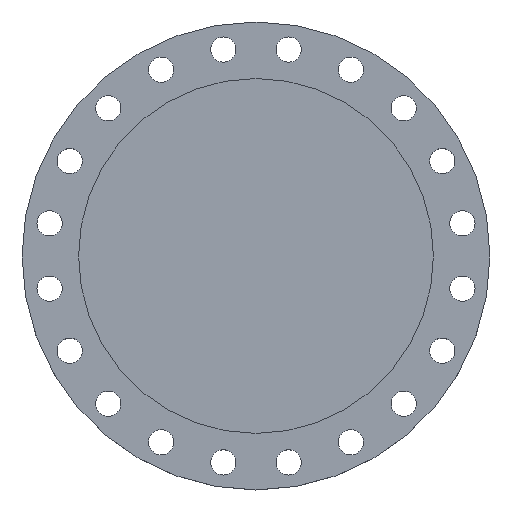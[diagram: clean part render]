
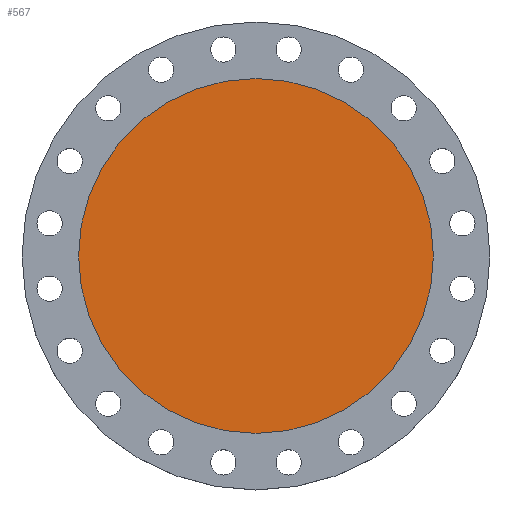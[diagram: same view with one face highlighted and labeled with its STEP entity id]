
A CAD part, top view. The second image highlights one B-rep face of the part: STEP entity #567.
In plain terms, the highlighted planar face has unit normal (0, 0, 1).
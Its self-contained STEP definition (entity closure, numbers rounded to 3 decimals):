
#130 = DIRECTION ( 'NONE',  ( -1., 0., 0. ) ) ;
#131 = DIRECTION ( 'NONE',  ( 0., 0., -1. ) ) ;
#134 = CARTESIAN_POINT ( 'NONE',  ( 0., 0., 0. ) ) ;
#222 = EDGE_CURVE ( 'NONE', #1466, #1536, #371, .T. ) ;
#297 = CARTESIAN_POINT ( 'NONE',  ( -337.5, 0., 0. ) ) ;
#371 = CIRCLE ( 'NONE', #444, 337.5 ) ;
#375 = CARTESIAN_POINT ( 'NONE',  ( 337.5, 0., 0. ) ) ;
#444 = AXIS2_PLACEMENT_3D ( 'NONE', #1091, #1071, #1070 ) ;
#567 = ADVANCED_FACE ( 'NONE', ( #881 ), #880, .T. ) ;
#592 = CIRCLE ( 'NONE', #1766, 337.5 ) ;
#877 = DIRECTION ( 'NONE',  ( 1., 0., 0. ) ) ;
#878 = DIRECTION ( 'NONE',  ( 0., 0., 1. ) ) ;
#879 = CARTESIAN_POINT ( 'NONE',  ( 0., 0., 0. ) ) ;
#880 = PLANE ( 'NONE',  #1420 ) ;
#881 = FACE_OUTER_BOUND ( 'NONE', #1639, .T. ) ;
#1070 = DIRECTION ( 'NONE',  ( -1., 0., 0. ) ) ;
#1071 = DIRECTION ( 'NONE',  ( 0., 0., -1. ) ) ;
#1091 = CARTESIAN_POINT ( 'NONE',  ( 0., 0., 0. ) ) ;
#1335 = ORIENTED_EDGE ( 'NONE', *, *, #222, .F. ) ;
#1336 = ORIENTED_EDGE ( 'NONE', *, *, #1794, .F. ) ;
#1420 = AXIS2_PLACEMENT_3D ( 'NONE', #879, #878, #877 ) ;
#1466 = VERTEX_POINT ( 'NONE', #375 ) ;
#1536 = VERTEX_POINT ( 'NONE', #297 ) ;
#1639 = EDGE_LOOP ( 'NONE', ( #1336, #1335 ) ) ;
#1766 = AXIS2_PLACEMENT_3D ( 'NONE', #134, #131, #130 ) ;
#1794 = EDGE_CURVE ( 'NONE', #1536, #1466, #592, .T. ) ;
